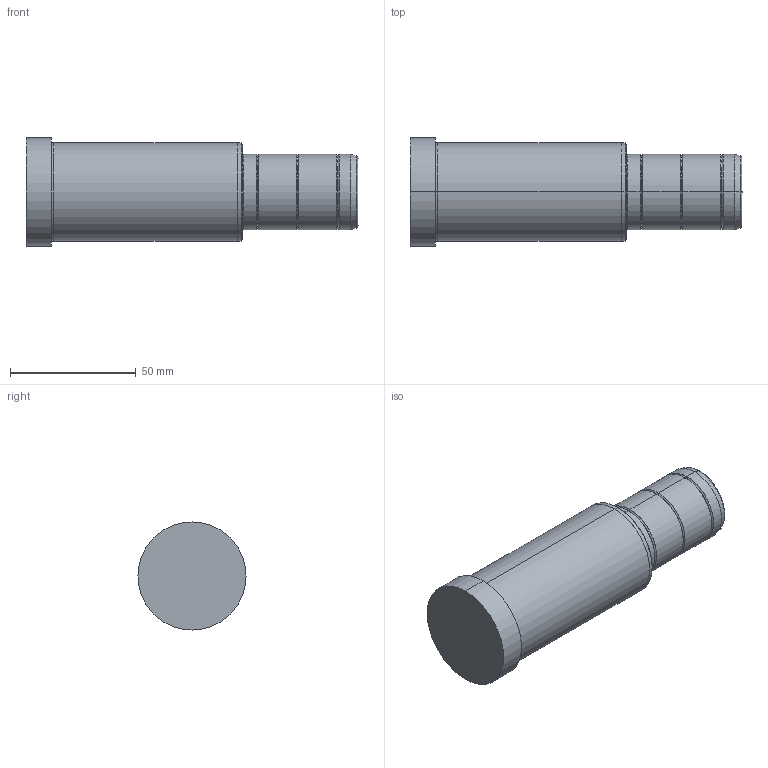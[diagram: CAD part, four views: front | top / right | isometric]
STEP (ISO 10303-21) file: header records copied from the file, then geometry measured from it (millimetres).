
FILE_DESCRIPTION( ( 'STEP AP203' ), '1' );
FILE_NAME( 'C:/Projects/D02 - 30x86x46.step', '2002-12-31T22:43:58', ( ' ' ), ( ' ' ), 'XStep 1.0', ' ', ' ' );
FILE_SCHEMA( ( 'CONFIG_CONTROL_DESIGN' ) );
Length unit declared in the file: metre
Products named in the file (1): 1
Bounding box: 132 x 43 x 43 mm (x, y, z)
Volume: 137674.7 mm3; surface area: 17913 mm2
Topology: 1 solids, 1 shells, 42 faces, 82 edges, 46 vertices
Faces by surface type: bspline 22, revolution 20
Entity records: 1325 total; most frequent: CARTESIAN_POINT 517, ORIENTED_EDGE 164, DIRECTION 134, EDGE_CURVE 82, AXIS2_PLACEMENT_3D 47, EDGE_LOOP 46, VERTEX_POINT 46, CIRCLE 46
